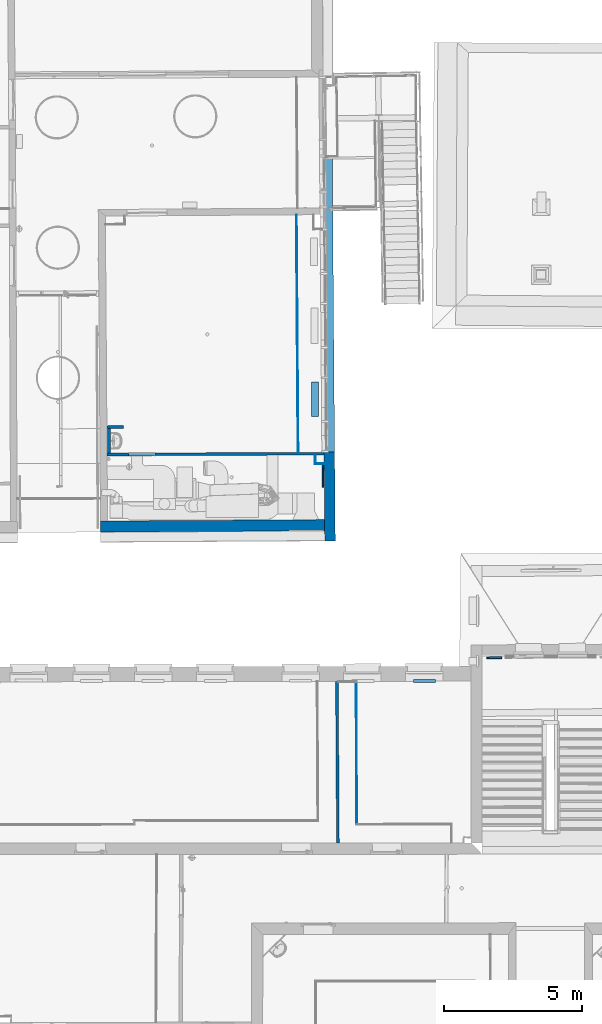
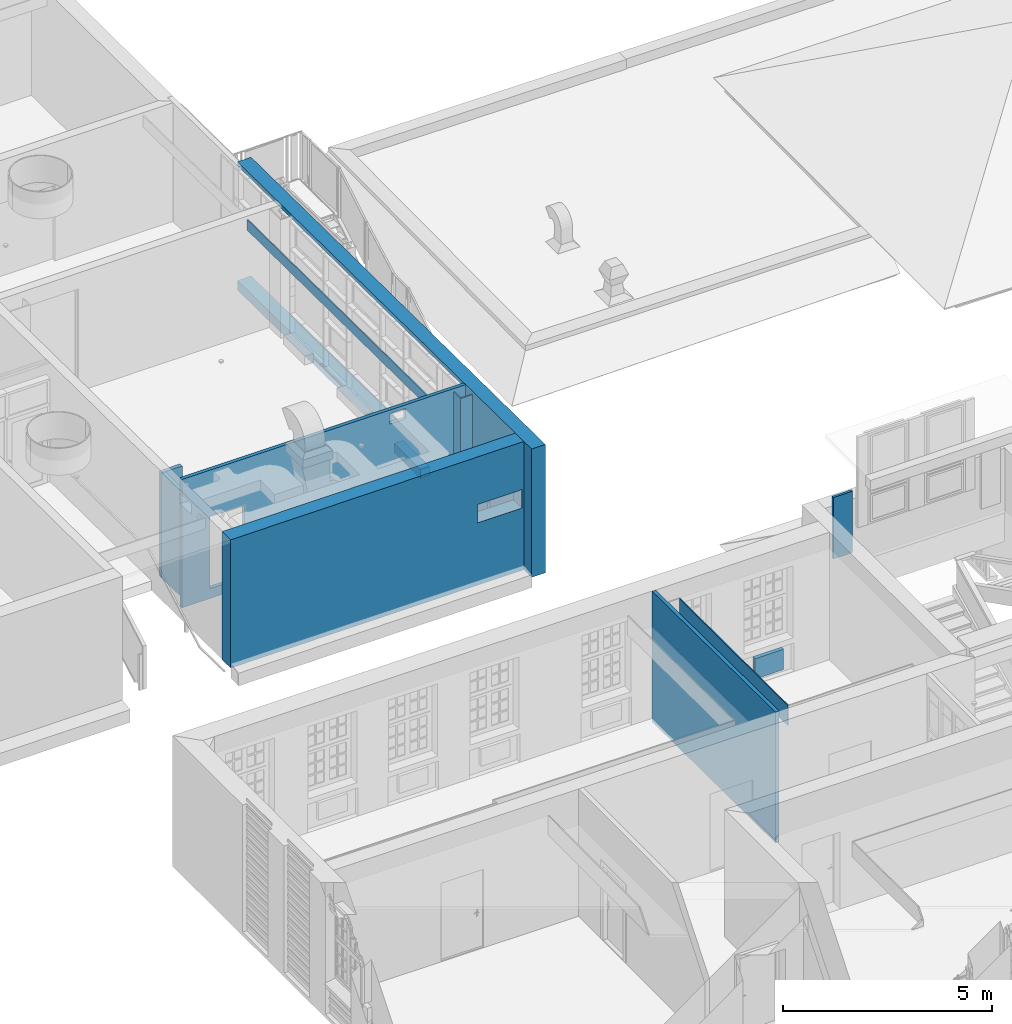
# One storey, part 25 of 158: 14 walls, 5 openings.
"""IFC2X3 building model written with IfcOpenShell, lengths in metres."""

from ifc_helpers import new_model, entity, si_unit, converted_unit, derived_unit, money_unit, direction, frame, origin_with_axes, origin_2d_with_axis, place, context, subcontext, project, spatial, polyline, rectangle, outline, extrude, material, layer, layer_set, layer_usage, type_object, element, save


model = new_model("IFC2X3")

# Units and contexts
model_context = context("Model", 3, precision=1e-05, world=origin_with_axes(), true_north=direction((0.0, 1.0)))
body_context = subcontext(model_context, "Body", "Model", "MODEL_VIEW")
ifc_project = project(units=[si_unit("LENGTHUNIT", "METRE"), si_unit("AREAUNIT", "SQUARE_METRE"), si_unit("VOLUMEUNIT", "CUBIC_METRE"), converted_unit("PLANEANGLEUNIT", "DEGREE", entity("IfcPlaneAngleMeasure", 0.0174532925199), si_unit("PLANEANGLEUNIT", "RADIAN"), dimensions=[0, 0, 0, 0, 0, 0, 0]), money_unit("EUR"), converted_unit("TIMEUNIT", "Year", entity("IfcTimeMeasure", 31556926.0), si_unit("TIMEUNIT", "SECOND"), dimensions=[0, 0, 1, 0, 0, 0, 0]), si_unit("MASSUNIT", "GRAM", prefix="KILO"), si_unit("THERMODYNAMICTEMPERATUREUNIT", "DEGREE_CELSIUS"), si_unit("LUMINOUSINTENSITYUNIT", "LUMEN"), si_unit("ENERGYUNIT", "JOULE", prefix="MEGA"), derived_unit("THERMALCONDUCTANCEUNIT", [(si_unit("POWERUNIT", "WATT"), 1), (si_unit("LENGTHUNIT", "METRE"), -1), (si_unit("THERMODYNAMICTEMPERATUREUNIT", "KELVIN"), -1)]), derived_unit("SPECIFICHEATCAPACITYUNIT", [(si_unit("ENERGYUNIT", "JOULE"), 1), (si_unit("MASSUNIT", "GRAM", prefix="KILO"), -1), (si_unit("THERMODYNAMICTEMPERATUREUNIT", "KELVIN"), -1)]), derived_unit("MASSDENSITYUNIT", [(si_unit("MASSUNIT", "GRAM", prefix="KILO"), 1), (si_unit("VOLUMEUNIT", "CUBIC_METRE"), -1)])], contexts=[model_context])

# Site, building, storey
site_placement = place(None, origin_with_axes())
site = spatial("IfcSite", under=ifc_project, at=site_placement, Name="Gelände", CompositionType="ELEMENT")
building_placement = place(site_placement, origin_with_axes())
building = spatial("IfcBuilding", under=site, at=building_placement, Name="Gebäude", CompositionType="ELEMENT")
storey_placement = place(building_placement, origin_with_axes())
storey = spatial("IfcBuildingStorey", under=building, at=storey_placement, Name="ERDGESCHOSS", CompositionType="ELEMENT", Elevation=0.0)

# Wall, opening
ifc_material_1 = material(Name="05_ALLGEMEIN - TRAGENDE BAUTEILE")
ifc_layer_1 = layer(ifc_material_1, 0.4, ventilated="UNKNOWN")
ifc_layer_set_1 = layer_set([ifc_layer_1], Name="05_ALLGEMEIN - TRAGENDE BAUTEILE 0.4")
ifc_layer_usage_1 = layer_usage(ifc_layer_set_1, "AXIS2", "NEGATIVE", 0.4)
wall_type_1 = type_object("IfcWallType", Name="05_ALLGEMEIN - TRAGENDE BAUTEILE 400", PredefinedType="ELEMENTEDWALL")
wall_1_placement = place(storey_placement, frame((-23.6482681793, 30.9080833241, 1.06), z_axis=(0.0, 0.0, 1.0), x_axis=(0.99998208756, 0.00598536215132, 0.0)))
wall_1 = element("IfcWallStandardCase", 1, at=wall_1_placement, inside=storey, type_object=wall_type_1, material=ifc_layer_usage_1, Name="Wand-030", ObjectType="ELEMENTEDWALL", context=body_context, shape_type="SweptSolid", body=[
    extrude(outline(polyline([(0.0, 0.0), (8.11228080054, 0.0), (8.11158811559, 0.4), (0.0, 0.4), (0.0, 0.0)])), origin_with_axes(), (0.0, 0.0, 1.0), 3.74),
])
opening_1_placement = place(wall_1_placement, frame((7.44071415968, 0.0, 1.81735066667), z_axis=(0.0, 0.0, 1.0), x_axis=(1.0, 0.0, 0.0)))
element("IfcOpeningElement", 2, at=opening_1_placement, cuts=wall_1, Name="Fenster-015", context=body_context, shape_type="SweptSolid", body=[
    extrude(rectangle(XDim=1.2313048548, YDim=0.534565, at=origin_2d_with_axis()), frame((0.0, 0.4, 0.2672825), z_axis=(0.0, 1.0, 0.0), x_axis=(-1.0, 0.0, 0.0)), (0.0, 0.0, -1.0), 1.2),
])

# Wall, openings
ifc_layer_2 = layer(ifc_material_1, 0.1, ventilated="UNKNOWN")
ifc_layer_set_2 = layer_set([ifc_layer_2], Name="05_ALLGEMEIN - TRAGENDE BAUTEILE 0.1")
ifc_layer_usage_2 = layer_usage(ifc_layer_set_2, "AXIS2", "NEGATIVE", 0.1)
wall_type_2 = type_object("IfcWallType", Name="05_ALLGEMEIN - TRAGENDE BAUTEILE 100", PredefinedType="ELEMENTEDWALL")
wall_2_placement = place(storey_placement, frame((-15.1780447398, 33.7974601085, 1.06), z_axis=(0.0, 0.0, 1.0), x_axis=(-0.999990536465, -0.0043505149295, 0.0)))
wall_2 = element("IfcWallStandardCase", 3, at=wall_2_placement, inside=storey, type_object=wall_type_2, material=ifc_layer_usage_2, Name="Wand-030", ObjectType="ELEMENTEDWALL", context=body_context, shape_type="SweptSolid", body=[
    extrude(outline(polyline([(0.380002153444, 0.0), (8.22668422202, 0.0), (8.22638297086, 0.1), (0.379665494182, 0.1), (0.380002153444, 0.0)])), origin_with_axes(), (0.0, 0.0, 1.0), 3.74),
])
opening_2_placement = place(wall_2_placement, frame((6.97719235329, 0.0, 0.285499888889), z_axis=(0.0, 0.0, 1.0), x_axis=(1.0, 0.0, 0.0)))
element("IfcOpeningElement", 4, at=opening_2_placement, cuts=wall_2, Name="Tür-022", context=body_context, shape_type="SweptSolid", body=[
    extrude(rectangle(XDim=0.95221311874, YDim=2.10018, at=origin_2d_with_axis()), frame((0.0, -0.1, 1.05009), z_axis=(0.0, -1.0, 0.0), x_axis=(1.0, 0.0, 0.0)), (0.0, 0.0, -1.0), 0.3),
])
opening_3_placement = place(wall_2_placement, frame((-15.0308647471, 33.8631725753, -1.06), z_axis=(0.0, 0.0, 1.0), x_axis=(-0.999990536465, 0.0043505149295, 0.0)))
element("IfcOpeningElement", 5, at=opening_3_placement, cuts=wall_2, Name="DD-010", context=body_context, shape_type="SweptSolid", body=[
    extrude(rectangle(XDim=0.444073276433, YDim=0.29179, at=origin_2d_with_axis()), frame((-17.4440601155, 33.7876016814, 4.54769822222), z_axis=(0.0043505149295, -0.999990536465, 0.0), x_axis=(0.999990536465, 0.0043505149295, 0.0)), (0.0, 0.0, -1.0), 0.00695918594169),
])
opening_4_placement = place(wall_2_placement, frame((-15.0308647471, 33.8631725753, -1.06), z_axis=(0.0, 0.0, 1.0), x_axis=(-0.999990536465, 0.0043505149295, 0.0)))
element("IfcOpeningElement", 6, at=opening_4_placement, cuts=wall_2, Name="DD-011", ObjectType="RECESS", context=body_context, shape_type="SweptSolid", body=[
    extrude(rectangle(XDim=0.443281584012, YDim=0.305002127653, at=origin_2d_with_axis()), frame((-17.4446985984, 33.9343605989, 4.5410921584), z_axis=(-0.0043505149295, 0.999990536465, 0.0), x_axis=(-0.999990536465, -0.0043505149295, 0.0)), (0.0, 0.0, -1.0), 0.410705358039),
])

# Wall
ifc_layer_usage_3 = layer_usage(ifc_layer_set_2, "AXIS2", "NEGATIVE", 0.0)
wall_3_placement = place(storey_placement, frame((-15.0477571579, 26.0464396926, -0.21), z_axis=(0.0, 0.0, 1.0), x_axis=(0.00598249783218, -0.9999821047, 0.0)))
element("IfcWallStandardCase", 7, at=wall_3_placement, inside=storey, type_object=wall_type_2, material=ifc_layer_usage_3, Name="Wand-038", ObjectType="ELEMENTEDWALL", context=body_context, shape_type="SweptSolid", body=[
    extrude(outline(polyline([(0.534546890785, -0.1), (6.37343103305, -0.1), (6.37396758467, 0.0), (0.535005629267, 0.0), (0.534546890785, -0.1)])), origin_with_axes(), (0.0, 0.0, 1.0), 3.81),
])

# Wall, opening
ifc_layer_3 = layer(ifc_material_1, 0.38, ventilated="UNKNOWN")
ifc_layer_set_3 = layer_set([ifc_layer_3], Name="05_ALLGEMEIN - TRAGENDE BAUTEILE 0.38")
ifc_layer_usage_4 = layer_usage(ifc_layer_set_3, "AXIS2", "NEGATIVE", 0.38)
wall_type_3 = type_object("IfcWallType", Name="05_ALLGEMEIN - TRAGENDE BAUTEILE 380", PredefinedType="ELEMENTEDWALL")
wall_4_placement = place(storey_placement, frame((-15.1533000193, 30.5910481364, 1.06), z_axis=(0.0, 0.0, 1.0), x_axis=(-0.00771703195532, 0.999970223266, 0.0)))
wall_4 = element("IfcWallStandardCase", 8, at=wall_4_placement, inside=storey, type_object=wall_type_3, material=ifc_layer_usage_4, Name="Wand-030", ObjectType="ELEMENTEDWALL", context=body_context, shape_type="SweptSolid", body=[
    extrude(outline(polyline([(0.0, 0.0), (13.874511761, 0.0), (13.874511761, 0.38), (0.0, 0.38), (0.0, 0.0)])), origin_with_axes(), (0.0, 0.0, 1.0), 3.74),
])
opening_5_placement = place(wall_4_placement, frame((8.54096698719, 0.0, 0.280439), z_axis=(0.0, 0.0, 1.0), x_axis=(1.0, 0.0, 0.0)))
element("IfcOpeningElement", 9, at=opening_5_placement, cuts=wall_4, Name="Fenster-021", context=body_context, shape_type="SweptSolid", body=[
    extrude(rectangle(XDim=10.6670895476, YDim=3.34343050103, at=origin_2d_with_axis()), frame((0.0, 0.38, 1.67171525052), z_axis=(0.0, 1.0, 0.0), x_axis=(-1.0, 0.0, 0.0)), (0.0, 0.0, -1.0), 1.14),
])

# Walls
ifc_material_2 = material(Name="43_Gipskarton")
ifc_layer_4 = layer(ifc_material_2, 0.03, ventilated="UNKNOWN")
ifc_layer_set_4 = layer_set([ifc_layer_4], Name="43_Gipskarton 0.03")
ifc_layer_usage_5 = layer_usage(ifc_layer_set_4, "AXIS2", "NEGATIVE", 0.03)
wall_type_4 = type_object("IfcWallType", Name="43_Gipskarton 30", PredefinedType="ELEMENTEDWALL")
wall_5_placement = place(storey_placement, frame((-15.8888740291, 33.7943676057, 1.35), z_axis=(0.0, 0.0, 1.0), x_axis=(-0.000450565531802, -0.999999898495, 0.0)))
element("IfcWallStandardCase", 10, at=wall_5_placement, inside=storey, type_object=wall_type_4, material=ifc_layer_usage_5, Name="Wand-032", ObjectType="ELEMENTEDWALL", context=body_context, shape_type="SweptSolid", body=[
    extrude(outline(polyline([(0.100001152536, 0.0), (0.427742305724, 0.0), (0.397393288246, 0.03), (0.0998571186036, 0.03), (0.100001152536, 0.0)])), origin_with_axes(), (0.0, 0.0, 1.0), 3.36),
])
ifc_layer_usage_6 = layer_usage(ifc_layer_set_4, "AXIS2", "NEGATIVE", 0.03)
wall_6_placement = place(storey_placement, frame((-15.889066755, 33.3666253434, 1.35), z_axis=(0.0, 0.0, 1.0), x_axis=(0.999938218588, 0.0111157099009, 0.0)))
element("IfcWallStandardCase", 11, at=wall_6_placement, inside=storey, type_object=wall_type_4, material=ifc_layer_usage_6, Name="Wand-033", ObjectType="ELEMENTEDWALL", context=body_context, shape_type="SweptSolid", body=[
    extrude(outline(polyline([(0.0, 0.0), (0.334327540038, 0.0), (0.334429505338, 0.03), (0.0303490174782, 0.03), (0.0, 0.0)])), origin_with_axes(), (0.0, 0.0, 1.0), 3.36),
])
ifc_layer_usage_7 = layer_usage(ifc_layer_set_4, "AXIS2", "NEGATIVE", 0.03)
wall_7_placement = place(storey_placement, frame((-14.3635216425, 20.3502149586, 2.555), z_axis=(0.0, 0.0, 1.0), x_axis=(-0.00298184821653, 0.999995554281, 0.0)))
element("IfcWallStandardCase", 12, at=wall_7_placement, inside=storey, type_object=wall_type_4, material=ifc_layer_usage_7, Name="Wand-039", ObjectType="ELEMENTEDWALL", context=body_context, shape_type="SweptSolid", body=[
    extrude(outline(polyline([(0.0, 0.0), (5.16218032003, 0.0), (5.13222788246, 0.03), (-0.0300434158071, 0.03), (0.0, 0.0)])), origin_with_axes(), (0.0, 0.0, 1.0), 0.585),
])
ifc_layer_usage_8 = layer_usage(ifc_layer_set_4, "AXIS2", "NEGATIVE", 0.0)
wall_8_placement = place(storey_placement, frame((-16.5408521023, 42.3809003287, 4.39), z_axis=(0.0, 0.0, 1.0), x_axis=(0.00693696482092, -0.99997593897, 0.0)))
element("IfcWallStandardCase", 13, at=wall_8_placement, inside=storey, type_object=wall_type_4, material=ifc_layer_usage_8, Name="Wand-040", ObjectType="ELEMENTEDWALL", context=body_context, shape_type="SweptSolid", body=[
    extrude(outline(polyline([(5.42886610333e-07, -0.03), (8.5892390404, -0.03), (8.58931663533, 0.0), (0.0, 0.0), (5.42886610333e-07, -0.03)])), origin_with_axes(), (0.0, 0.0, 1.0), 0.31),
])
ifc_material_3 = material(Name="01_ALLGEMEIN - BAUTEIL")
ifc_layer_5 = layer(ifc_material_3, 0.105, ventilated="UNKNOWN")
ifc_layer_set_5 = layer_set([ifc_layer_5], Name="01_ALLGEMEIN - BAUTEIL 0.105")
ifc_layer_usage_9 = layer_usage(ifc_layer_set_5, "AXIS2", "NEGATIVE", 0.0)
wall_type_5 = type_object("IfcWallType", Name="01_ALLGEMEIN - BAUTEIL 105", PredefinedType="ELEMENTEDWALL")
wall_9_placement = place(storey_placement, frame((-11.5330841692, 25.4767816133, 0.071017), z_axis=(0.0, 0.0, 1.0), x_axis=(-0.999955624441, -0.00942067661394, 0.0)))
element("IfcWallStandardCase", 14, at=wall_9_placement, inside=storey, type_object=wall_type_5, material=ifc_layer_usage_9, Name="Wand-036", ObjectType="ELEMENTEDWALL", context=body_context, shape_type="SweptSolid", body=[
    extrude(outline(polyline([(0.0, -0.105), (0.797255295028, -0.105), (0.797255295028, 0.0), (0.0, 0.0), (0.0, -0.105)])), origin_with_axes(), (0.0, 0.0, 1.0), 0.593421),
])
ifc_layer_6 = layer(ifc_material_3, 0.06, ventilated="UNKNOWN")
ifc_layer_set_6 = layer_set([ifc_layer_6], Name="01_ALLGEMEIN - BAUTEIL 0.06")
ifc_layer_usage_10 = layer_usage(ifc_layer_set_6, "AXIS2", "NEGATIVE", 0.06)
wall_type_6 = type_object("IfcWallType", Name="01_ALLGEMEIN - BAUTEIL 60", PredefinedType="ELEMENTEDWALL")
wall_10_placement = place(storey_placement, frame((-15.6304387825, 33.3257865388, 1.48101322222), z_axis=(0.0, 0.0, 1.0), x_axis=(0.00672512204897, -0.999977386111, 0.0)))
element("IfcWallStandardCase", 15, at=wall_10_placement, inside=storey, type_object=wall_type_6, material=ifc_layer_usage_10, Name="Wand-030", ObjectType="ELEMENTEDWALL", context=body_context, shape_type="SweptSolid", body=[
    extrude(outline(polyline([(0.0, 0.0), (0.797282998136, 0.0), (0.797282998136, 0.06), (0.0, 0.06), (0.0, 0.0)])), origin_with_axes(), (0.0, 0.0, 1.0), 0.606909),
])
ifc_layer_7 = layer(ifc_material_3, 0.065, ventilated="UNKNOWN")
ifc_layer_set_7 = layer_set([ifc_layer_7], Name="01_ALLGEMEIN - BAUTEIL 0.065")
ifc_layer_usage_11 = layer_usage(ifc_layer_set_7, "AXIS2", "NEGATIVE", 0.0)
wall_type_7 = type_object("IfcWallType", Name="01_ALLGEMEIN - BAUTEIL 65", PredefinedType="ELEMENTEDWALL")
wall_11_placement = place(storey_placement, frame((-9.13711895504, 26.3336326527, 2.12303225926), z_axis=(0.0, 0.0, 1.0), x_axis=(-0.999897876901, -0.0142911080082, 0.0)))
element("IfcWallStandardCase", 16, at=wall_11_placement, inside=storey, type_object=wall_type_7, material=ifc_layer_usage_11, Name="Wand-037", ObjectType="ELEMENTEDWALL", context=body_context, shape_type="SweptSolid", body=[
    extrude(outline(polyline([(0.0, -0.065), (0.534100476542, -0.065), (0.534100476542, 0.0), (0.0, 0.0), (0.0, -0.065)])), origin_with_axes(), (0.0, 0.0, 1.0), 1.793452),
])
ifc_layer_8 = layer(ifc_material_3, 0.255, ventilated="UNKNOWN")
ifc_layer_set_8 = layer_set([ifc_layer_8], Name="01_ALLGEMEIN - BAUTEIL 0.255")
ifc_layer_usage_12 = layer_usage(ifc_layer_set_8, "AXIS2", "NEGATIVE", 0.0)
wall_type_8 = type_object("IfcWallType", Name="01_ALLGEMEIN - BAUTEIL 255", PredefinedType="ELEMENTEDWALL")
wall_12_placement = place(storey_placement, frame((-16.0074494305, 35.0841365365, 1.38444872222), z_axis=(0.0, 0.0, 1.0), x_axis=(-0.00379636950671, 0.999992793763, 0.0)))
element("IfcWallStandardCase", 17, at=wall_12_placement, inside=storey, type_object=wall_type_8, material=ifc_layer_usage_12, Name="Wand-030", ObjectType="ELEMENTEDWALL", context=body_context, shape_type="SweptSolid", body=[
    extrude(outline(polyline([(0.0, -0.255), (1.25300924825, -0.255), (1.25300924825, 0.0), (0.0, 0.0), (0.0, -0.255)])), origin_with_axes(), (0.0, 0.0, 1.0), 0.260503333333),
])
ifc_layer_9 = layer(ifc_material_2, 0.105, ventilated="UNKNOWN")
ifc_layer_set_9 = layer_set([ifc_layer_9], Name="43_Gipskarton 0.105")
ifc_layer_usage_13 = layer_usage(ifc_layer_set_9, "AXIS2", "NEGATIVE", 0.105)
wall_type_9 = type_object("IfcWallType", Name="43_Gipskarton 105", PredefinedType="ELEMENTEDWALL")
wall_13_placement = place(storey_placement, frame((-23.2895788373, 33.7621704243, 1.34), z_axis=(0.0, 0.0, 1.0), x_axis=(0.0, 1.0, 0.0)))
element("IfcWallStandardCase", 18, at=wall_13_placement, inside=storey, type_object=wall_type_9, material=ifc_layer_usage_13, Name="Wand-031", ObjectType="ELEMENTEDWALL", context=body_context, shape_type="SweptSolid", body=[
    extrude(outline(polyline([(0.0, 0.0), (0.887817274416, 0.0), (0.885610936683, 0.105), (-0.000456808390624, 0.105), (0.0, 0.0)])), origin_with_axes(), (0.0, 0.0, 1.0), 3.05),
])
ifc_layer_usage_14 = layer_usage(ifc_layer_set_9, "AXIS2", "NEGATIVE", 0.105)
wall_14_placement = place(storey_placement, frame((-22.8174099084, 34.7649324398, 1.34), z_axis=(0.0, 0.0, 1.0), x_axis=(-0.999779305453, -0.0210081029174, 0.0)))
element("IfcWallStandardCase", 19, at=wall_14_placement, inside=storey, type_object=wall_type_9, material=ifc_layer_usage_14, Name="Wand-031", ObjectType="ELEMENTEDWALL", context=body_context, shape_type="SweptSolid", body=[
    extrude(outline(polyline([(0.0, 0.0), (0.594667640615, 0.0), (0.596100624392, 0.105), (0.0, 0.105), (0.0, 0.0)])), origin_with_axes(), (0.0, 0.0, 1.0), 3.05),
])

save(model, "model.ifc")
